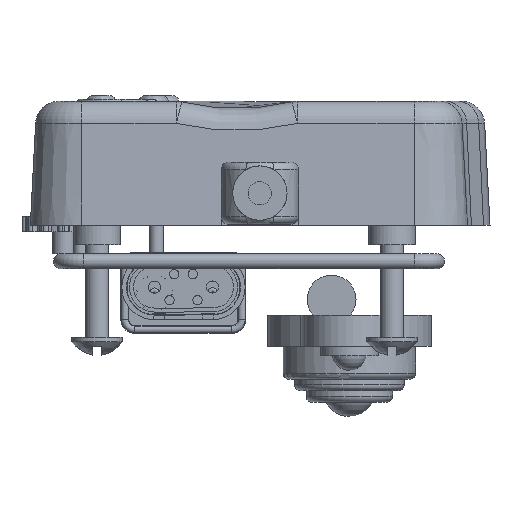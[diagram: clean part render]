
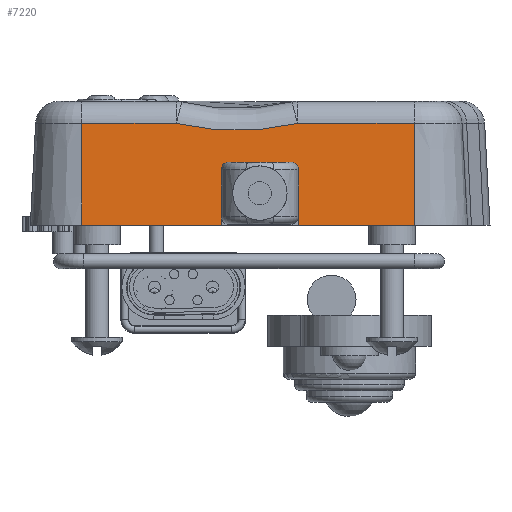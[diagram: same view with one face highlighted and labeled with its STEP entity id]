
A CAD part, left-side view. The second image highlights one B-rep face of the part: STEP entity #7220.
In plain terms, the highlighted planar face has unit normal (-0.999, 0, 0.052).
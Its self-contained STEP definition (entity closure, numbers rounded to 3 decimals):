
#2442=B_SPLINE_CURVE_WITH_KNOTS('',3,(#84146,#84147,#84148,#84149),
 .UNSPECIFIED.,.F.,.F.,(4,4),(0.,1.),.UNSPECIFIED.);
#2443=B_SPLINE_CURVE_WITH_KNOTS('',3,(#84153,#84154,#84155,#84156,#84157,
#84158),.UNSPECIFIED.,.F.,.F.,(4,2,4),(0.,0.5,1.),.UNSPECIFIED.);
#2444=B_SPLINE_CURVE_WITH_KNOTS('',3,(#84162,#84163,#84164,#84165),
 .UNSPECIFIED.,.F.,.F.,(4,4),(0.,1.),.UNSPECIFIED.);
#2445=B_SPLINE_CURVE_WITH_KNOTS('',3,(#84167,#84168,#84169,#84170),
 .UNSPECIFIED.,.F.,.F.,(4,4),(0.,1.),.UNSPECIFIED.);
#3967=ELLIPSE('',#56916,1.001,1.);
#3968=ELLIPSE('',#56917,1.001,1.);
#4412=FACE_OUTER_BOUND('',#23663,.T.);
#7220=ADVANCED_FACE('',(#4412),#9940,.F.);
#9940=PLANE('',#56918);
#12300=LINE('',#84133,#17612);
#12301=LINE('',#84138,#17613);
#12302=LINE('',#84142,#17614);
#12303=LINE('',#84144,#17615);
#12304=LINE('',#84151,#17616);
#12305=LINE('',#84160,#17617);
#12306=LINE('',#84172,#17618);
#17612=VECTOR('',#62812,1.);
#17613=VECTOR('',#62815,1.);
#17614=VECTOR('',#62818,1.);
#17615=VECTOR('',#62819,1.);
#17616=VECTOR('',#62820,1.);
#17617=VECTOR('',#62821,1.);
#17618=VECTOR('',#62822,1.);
#23663=EDGE_LOOP('',(#28957,#28958,#28959,#28960,#28961,#28962,#28963,#28964,
#28965,#28966,#28967,#28968,#28969));
#28957=ORIENTED_EDGE('',*,*,#48207,.T.);
#28958=ORIENTED_EDGE('',*,*,#48208,.T.);
#28959=ORIENTED_EDGE('',*,*,#48209,.T.);
#28960=ORIENTED_EDGE('',*,*,#48210,.T.);
#28961=ORIENTED_EDGE('',*,*,#48211,.T.);
#28962=ORIENTED_EDGE('',*,*,#48212,.F.);
#28963=ORIENTED_EDGE('',*,*,#48213,.T.);
#28964=ORIENTED_EDGE('',*,*,#48214,.T.);
#28965=ORIENTED_EDGE('',*,*,#48215,.T.);
#28966=ORIENTED_EDGE('',*,*,#48216,.T.);
#28967=ORIENTED_EDGE('',*,*,#48217,.T.);
#28968=ORIENTED_EDGE('',*,*,#48218,.T.);
#28969=ORIENTED_EDGE('',*,*,#48219,.F.);
#42685=VERTEX_POINT('',#84134);
#42686=VERTEX_POINT('',#84135);
#42687=VERTEX_POINT('',#84137);
#42688=VERTEX_POINT('',#84139);
#42689=VERTEX_POINT('',#84141);
#42690=VERTEX_POINT('',#84143);
#42691=VERTEX_POINT('',#84145);
#42692=VERTEX_POINT('',#84150);
#42693=VERTEX_POINT('',#84152);
#42694=VERTEX_POINT('',#84159);
#42695=VERTEX_POINT('',#84161);
#42696=VERTEX_POINT('',#84166);
#42697=VERTEX_POINT('',#84171);
#48207=EDGE_CURVE('',#42685,#42686,#12300,.T.);
#48208=EDGE_CURVE('',#42686,#42687,#3967,.T.);
#48209=EDGE_CURVE('',#42687,#42688,#12301,.T.);
#48210=EDGE_CURVE('',#42688,#42689,#3968,.T.);
#48211=EDGE_CURVE('',#42689,#42690,#12302,.T.);
#48212=EDGE_CURVE('',#42691,#42690,#12303,.T.);
#48213=EDGE_CURVE('',#42691,#42692,#2442,.T.);
#48214=EDGE_CURVE('',#42692,#42693,#12304,.T.);
#48215=EDGE_CURVE('',#42693,#42694,#2443,.T.);
#48216=EDGE_CURVE('',#42694,#42695,#12305,.T.);
#48217=EDGE_CURVE('',#42695,#42696,#2444,.T.);
#48218=EDGE_CURVE('',#42696,#42697,#2445,.T.);
#48219=EDGE_CURVE('',#42685,#42697,#12306,.T.);
#56916=AXIS2_PLACEMENT_3D('',#84136,#62813,#62814);
#56917=AXIS2_PLACEMENT_3D('',#84140,#62816,#62817);
#56918=AXIS2_PLACEMENT_3D('',#84173,#62823,#62824);
#62812=DIRECTION('',(0.052,0.,0.999));
#62813=DIRECTION('',(0.999,0.,-0.052));
#62814=DIRECTION('',(-0.052,0.,-0.999));
#62815=DIRECTION('',(0.,-1.,0.));
#62816=DIRECTION('',(0.999,0.,-0.052));
#62817=DIRECTION('',(-0.052,0.,-0.999));
#62818=DIRECTION('',(-0.052,0.,-0.999));
#62819=DIRECTION('',(0.,1.,0.));
#62820=DIRECTION('',(0.,1.,0.));
#62821=DIRECTION('',(0.,1.,0.));
#62822=DIRECTION('',(0.,1.,0.));
#62823=DIRECTION('',(0.999,0.,-0.052));
#62824=DIRECTION('',(-0.052,0.,-0.999));
#84133=CARTESIAN_POINT('',(-32.512,2.6,15.419));
#84134=CARTESIAN_POINT('',(-32.569,2.6,14.33));
#84135=CARTESIAN_POINT('',(-32.193,2.6,21.5));
#84136=CARTESIAN_POINT('',(-32.193,1.6,21.5));
#84137=CARTESIAN_POINT('',(-32.141,1.6,22.5));
#84138=CARTESIAN_POINT('',(-32.141,-1.931,22.5));
#84139=CARTESIAN_POINT('',(-32.141,-6.4,22.5));
#84140=CARTESIAN_POINT('',(-32.193,-6.4,21.5));
#84141=CARTESIAN_POINT('',(-32.193,-7.4,21.5));
#84142=CARTESIAN_POINT('',(-32.512,-7.4,15.419));
#84143=CARTESIAN_POINT('',(-32.569,-7.4,14.33));
#84144=CARTESIAN_POINT('',(-32.569,-1.931,14.33));
#84145=CARTESIAN_POINT('',(-32.569,-22.304,14.33));
#84146=CARTESIAN_POINT('',(-32.569,-22.304,14.33));
#84147=CARTESIAN_POINT('',(-32.339,-22.304,18.715));
#84148=CARTESIAN_POINT('',(-32.11,-22.304,23.101));
#84149=CARTESIAN_POINT('',(-31.88,-22.304,27.487));
#84150=CARTESIAN_POINT('',(-31.88,-22.304,27.487));
#84151=CARTESIAN_POINT('',(-31.88,-5.646,27.487));
#84152=CARTESIAN_POINT('',(-31.88,-7.23,27.487));
#84153=CARTESIAN_POINT('',(-31.88,-7.23,27.487));
#84154=CARTESIAN_POINT('',(-31.913,-4.658,26.859));
#84155=CARTESIAN_POINT('',(-31.929,-2.068,26.545));
#84156=CARTESIAN_POINT('',(-31.93,3.148,26.534));
#84157=CARTESIAN_POINT('',(-31.913,5.797,26.847));
#84158=CARTESIAN_POINT('',(-31.88,8.367,27.487));
#84159=CARTESIAN_POINT('',(-31.88,8.367,27.487));
#84160=CARTESIAN_POINT('',(-31.88,20.593,27.487));
#84161=CARTESIAN_POINT('',(-31.877,20.593,27.487));
#84162=CARTESIAN_POINT('',(-31.88,20.593,27.487));
#84163=CARTESIAN_POINT('',(-32.043,20.593,24.372));
#84164=CARTESIAN_POINT('',(-32.206,20.593,21.258));
#84165=CARTESIAN_POINT('',(-32.369,20.593,18.143));
#84166=CARTESIAN_POINT('',(-32.369,20.593,18.143));
#84167=CARTESIAN_POINT('',(-32.369,20.593,18.143));
#84168=CARTESIAN_POINT('',(-32.436,20.593,16.872));
#84169=CARTESIAN_POINT('',(-32.503,20.593,15.601));
#84170=CARTESIAN_POINT('',(-32.569,20.593,14.33));
#84171=CARTESIAN_POINT('',(-32.567,20.593,14.33));
#84172=CARTESIAN_POINT('',(-32.569,-1.931,14.33));
#84173=CARTESIAN_POINT('',(-32.512,-1.931,15.419));
